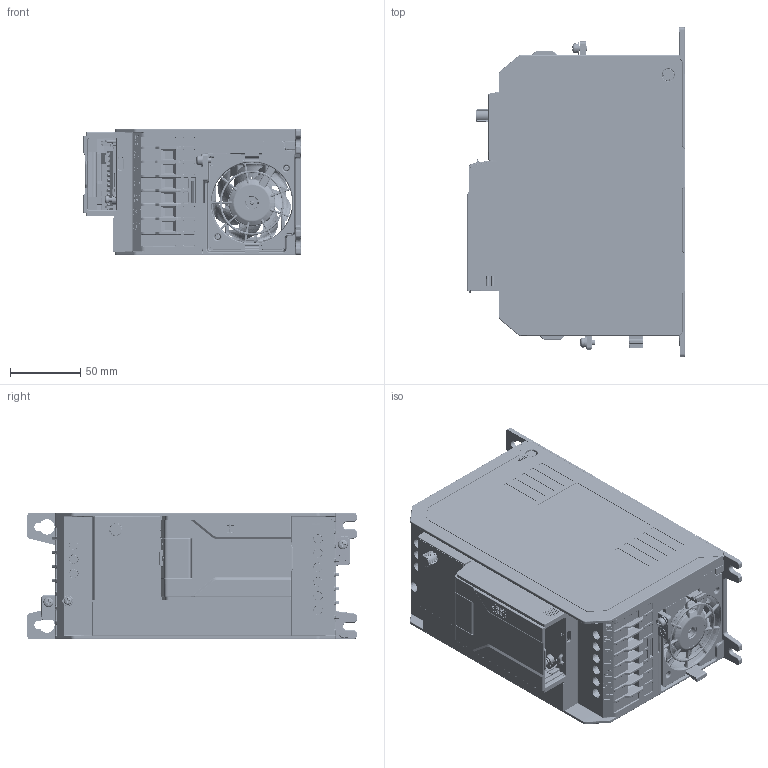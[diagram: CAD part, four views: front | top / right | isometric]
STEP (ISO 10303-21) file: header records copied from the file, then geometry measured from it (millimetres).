
FILE_DESCRIPTION((''),'2;1');
FILE_NAME('GD28_3PH_C-220V_4-0001_ASM','2025-09-11T15:18:01',('Administrator'),(''),'CREO PARAMETRIC BY PTC INC, 2019080','CREO PARAMETRIC BY PTC INC, 2019080','');
FILE_SCHEMA(('CONFIG_CONTROL_DESIGN'));
Products named in the file (3): GD28-5R5G-2_ASM_1_ASM; 40810244; GD28_3PH_C-220V_4-0001_ASM
Assembly tree (2 placements, depth 2):
  GD28_3PH_C-220V_4-0001_ASM
    GD28-5R5G-2_ASM_1_ASM
    40810244
Bounding box: 155 x 235 x 90 mm (x, y, z)
Volume: 41550.2 mm3; surface area: 485819.8 mm2
Topology: 25 solids, 62 shells, 17510 faces, 48357 edges, 30645 vertices
Faces by surface type: plane 9805, cylinder 3948, extrusion 1258, torus 941, bspline 907, cone 477, sphere 174
Entity records: 639219 total; most frequent: CARTESIAN_POINT 206334, ORIENTED_EDGE 95692, DIRECTION 80528, EDGE_CURVE 48140, VECTOR 32584, LINE 31326, VERTEX_POINT 30896, AXIS2_PLACEMENT_3D 23972
